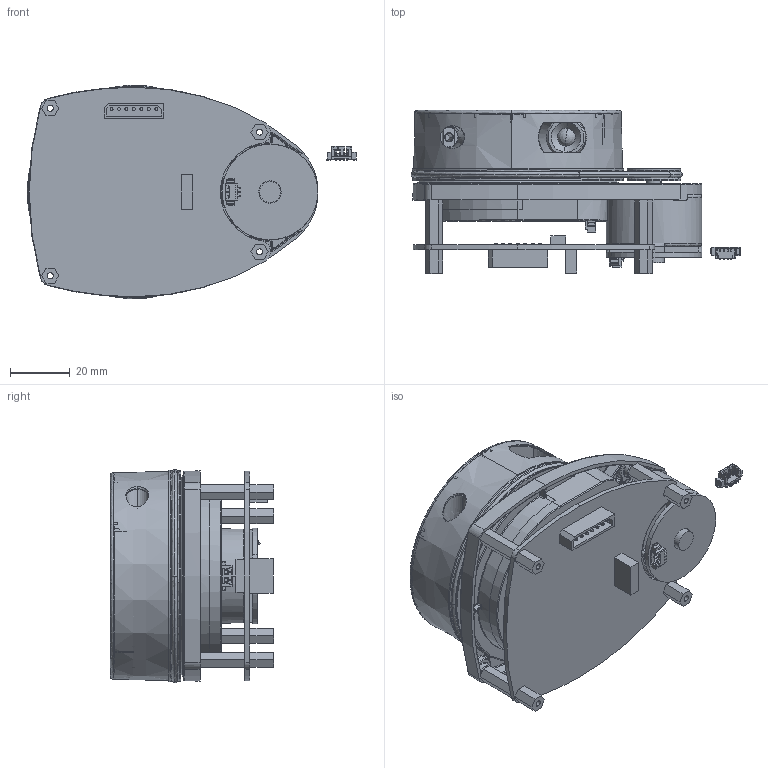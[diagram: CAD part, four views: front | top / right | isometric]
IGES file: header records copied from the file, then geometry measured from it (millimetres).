
Start section: SolidWorks IGES file using analytic representation for surfaces
Global section: file name: 0HF:\5-无线充电雷达\无线充电雷达 （W2）\RPLIDAR 1.5_for comsumer\无线-RPLIDAR-1.5 DevKit.IGS; native system: SolidWorks 2015; preprocessor: SolidWorks 2015; author: Wangyc; date: 160503.170812; units: millimetre
Bounding box: 110.27 x 54.6 x 71.33 mm (x, y, z)
Volume: 79063 mm3; surface area: 96945.8 mm2
Topology: 27 solids, 30 shells, 3909 faces, 23152 edges, 28260 vertices
Faces by surface type: revolution 1656, plane 1407, bspline 846
